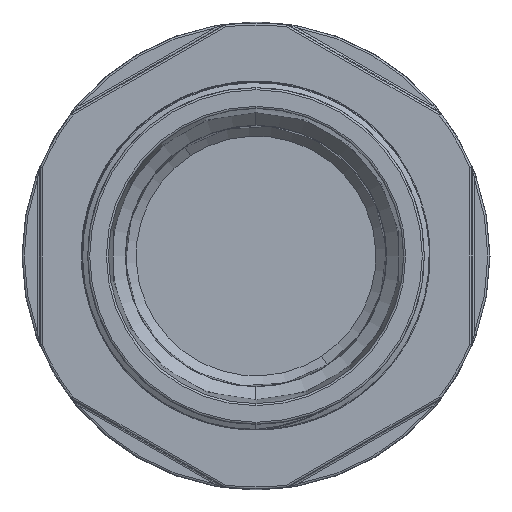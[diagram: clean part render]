
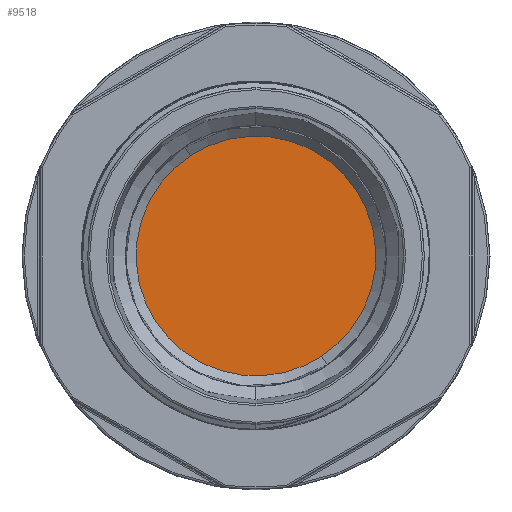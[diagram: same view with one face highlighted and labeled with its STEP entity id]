
A CAD part, front view. The second image highlights one B-rep face of the part: STEP entity #9518.
In plain terms, the highlighted planar face has unit normal (0, -1, 0).
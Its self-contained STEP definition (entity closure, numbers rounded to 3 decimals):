
#51 = DIRECTION ( 'NONE',  ( 0., 0., -1. ) ) ;
#414 = FACE_OUTER_BOUND ( 'NONE', #10679, .T. ) ;
#882 = DIRECTION ( 'NONE',  ( 0., 0., 1. ) ) ;
#3810 = EDGE_CURVE ( 'NONE', #28853, #36275, #37935, .T. ) ;
#4889 = ORIENTED_EDGE ( 'NONE', *, *, #7485, .T. ) ;
#7003 = DIRECTION ( 'NONE',  ( 0., 0., -1. ) ) ;
#7485 = EDGE_CURVE ( 'NONE', #36275, #28853, #10139, .T. ) ;
#9518 = ADVANCED_FACE ( 'NONE', ( #414 ), #11202, .F. ) ;
#10139 = CIRCLE ( 'NONE', #35311, 17.936 ) ;
#10679 = EDGE_LOOP ( 'NONE', ( #21619, #4889 ) ) ;
#11202 = PLANE ( 'NONE',  #27759 ) ;
#13887 = CARTESIAN_POINT ( 'NONE',  ( 0., 21., -17.936 ) ) ;
#14873 = CARTESIAN_POINT ( 'NONE',  ( 0., 21., 0. ) ) ;
#18838 = DIRECTION ( 'NONE',  ( 0., 1., 0. ) ) ;
#21619 = ORIENTED_EDGE ( 'NONE', *, *, #3810, .T. ) ;
#22527 = DIRECTION ( 'NONE',  ( 0., -1., 0. ) ) ;
#27701 = CARTESIAN_POINT ( 'NONE',  ( 0., 21., 17.936 ) ) ;
#27759 = AXIS2_PLACEMENT_3D ( 'NONE', #40129, #18838, #882 ) ;
#28853 = VERTEX_POINT ( 'NONE', #13887 ) ;
#32121 = CARTESIAN_POINT ( 'NONE',  ( 0., 21., 0. ) ) ;
#35311 = AXIS2_PLACEMENT_3D ( 'NONE', #14873, #22527, #51 ) ;
#36275 = VERTEX_POINT ( 'NONE', #27701 ) ;
#37140 = AXIS2_PLACEMENT_3D ( 'NONE', #32121, #39072, #7003 ) ;
#37935 = CIRCLE ( 'NONE', #37140, 17.936 ) ;
#39072 = DIRECTION ( 'NONE',  ( 0., -1., 0. ) ) ;
#40129 = CARTESIAN_POINT ( 'NONE',  ( 0., 21., 0. ) ) ;
